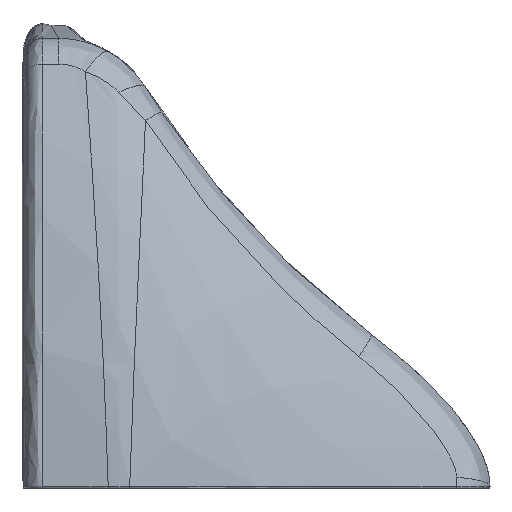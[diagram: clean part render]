
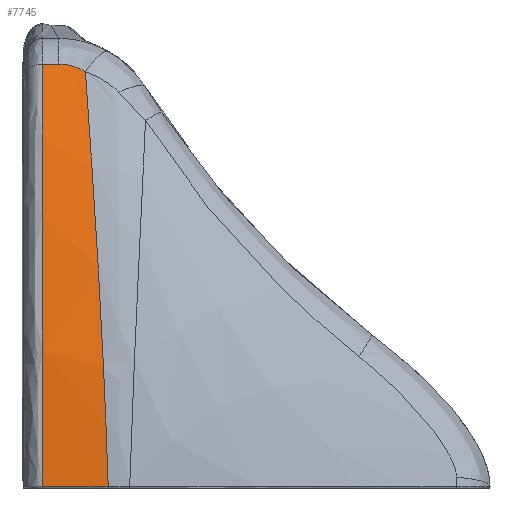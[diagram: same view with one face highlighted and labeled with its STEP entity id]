
A CAD part, left-side view. The second image highlights one B-rep face of the part: STEP entity #7745.
In plain terms, the highlighted cylindrical face has radius 1300 mm (diameter 2600 mm), a partial arc.
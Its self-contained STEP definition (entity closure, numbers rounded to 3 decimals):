
#219=CYLINDRICAL_SURFACE('',#8235,1300.);
#690=FACE_OUTER_BOUND('',#1188,.T.);
#1188=EDGE_LOOP('',(#5763,#5764,#5765,#5766,#5767));
#1605=LINE('',#47888,#1841);
#1606=LINE('',#47896,#1842);
#1841=VECTOR('',#8953,1000.);
#1842=VECTOR('',#8954,1000.);
#2575=B_SPLINE_CURVE_WITH_KNOTS('',3,(#47828,#47829,#47830,#47831,#47832,
#47833,#47834,#47835,#47836,#47837,#47838,#47839,#47840,#47841,#47842,#47843,
#47844,#47845,#47846,#47847,#47848,#47849,#47850,#47851,#47852,#47853,#47854,
#47855,#47856,#47857),.UNSPECIFIED.,.F.,.F.,(4,2,2,2,2,2,2,2,2,2,2,2,2,
2,4),(0.04,0.057,0.066,0.074,
0.109,0.178,0.248,0.282,
0.3,0.317,0.386,0.456,
0.49,0.525,0.594),.UNSPECIFIED.);
#2576=B_SPLINE_CURVE_WITH_KNOTS('',3,(#47859,#47860,#47861,#47862,#47863,
#47864,#47865,#47866,#47867,#47868,#47869,#47870,#47871,#47872,#47873,#47874,
#47875,#47876,#47877,#47878,#47879,#47880,#47881,#47882,#47883,#47884,#47885,
#47886),.UNSPECIFIED.,.F.,.F.,(4,3,3,3,3,3,3,3,3,4),(0.,0.005,
0.009,0.014,0.016,0.018,
0.024,0.027,0.033,0.036),
 .UNSPECIFIED.);
#2577=B_SPLINE_CURVE_WITH_KNOTS('',3,(#47890,#47891,#47892,#47893,#47894,
#47895),.UNSPECIFIED.,.F.,.F.,(4,2,4),(0.004,0.475,
1.),.UNSPECIFIED.);
#3305=VERTEX_POINT('',#47826);
#3306=VERTEX_POINT('',#47827);
#3307=VERTEX_POINT('',#47858);
#3308=VERTEX_POINT('',#47887);
#3309=VERTEX_POINT('',#47889);
#4179=EDGE_CURVE('',#3305,#3306,#2575,.T.);
#4180=EDGE_CURVE('',#3307,#3305,#2576,.T.);
#4181=EDGE_CURVE('',#3308,#3307,#1605,.T.);
#4182=EDGE_CURVE('',#3309,#3308,#2577,.T.);
#4183=EDGE_CURVE('',#3306,#3309,#1606,.T.);
#5763=ORIENTED_EDGE('',*,*,#4179,.F.);
#5764=ORIENTED_EDGE('',*,*,#4180,.F.);
#5765=ORIENTED_EDGE('',*,*,#4181,.F.);
#5766=ORIENTED_EDGE('',*,*,#4182,.F.);
#5767=ORIENTED_EDGE('',*,*,#4183,.F.);
#7745=ADVANCED_FACE('',(#690),#219,.T.);
#8235=AXIS2_PLACEMENT_3D('',#47825,#8951,#8952);
#8951=DIRECTION('center_axis',(0.,-1.,0.));
#8952=DIRECTION('ref_axis',(0.,0.,-1.));
#8953=DIRECTION('',(0.,-1.,0.));
#8954=DIRECTION('',(0.,1.,0.));
#47825=CARTESIAN_POINT('Origin',(699.607,600.,-31.963));
#47826=CARTESIAN_POINT('',(-470.059,519.893,535.383));
#47827=CARTESIAN_POINT('',(-599.948,490.598,2.052));
#47828=CARTESIAN_POINT('Ctrl Pts',(-470.059,519.893,535.383));
#47829=CARTESIAN_POINT('Ctrl Pts',(-472.577,519.643,530.193));
#47830=CARTESIAN_POINT('Ctrl Pts',(-475.058,519.337,524.989));
#47831=CARTESIAN_POINT('Ctrl Pts',(-478.727,518.796,517.161));
#47832=CARTESIAN_POINT('Ctrl Pts',(-479.941,518.6,514.548));
#47833=CARTESIAN_POINT('Ctrl Pts',(-482.352,518.219,509.314));
#47834=CARTESIAN_POINT('Ctrl Pts',(-483.549,518.029,506.692));
#47835=CARTESIAN_POINT('Ctrl Pts',(-489.491,517.079,493.565));
#47836=CARTESIAN_POINT('Ctrl Pts',(-494.107,516.321,482.992));
#47837=CARTESIAN_POINT('Ctrl Pts',(-507.516,514.068,451.137));
#47838=CARTESIAN_POINT('Ctrl Pts',(-515.874,512.589,429.702));
#47839=CARTESIAN_POINT('Ctrl Pts',(-531.438,509.695,386.435));
#47840=CARTESIAN_POINT('Ctrl Pts',(-538.643,508.279,364.604));
#47841=CARTESIAN_POINT('Ctrl Pts',(-548.586,506.217,331.558));
#47842=CARTESIAN_POINT('Ctrl Pts',(-551.755,505.54,320.493));
#47843=CARTESIAN_POINT('Ctrl Pts',(-556.292,504.541,303.821));
#47844=CARTESIAN_POINT('Ctrl Pts',(-557.768,504.211,298.251));
#47845=CARTESIAN_POINT('Ctrl Pts',(-560.647,503.556,287.086));
#47846=CARTESIAN_POINT('Ctrl Pts',(-562.051,503.232,281.489));
#47847=CARTESIAN_POINT('Ctrl Pts',(-568.881,501.627,253.47));
#47848=CARTESIAN_POINT('Ctrl Pts',(-573.74,500.397,230.941));
#47849=CARTESIAN_POINT('Ctrl Pts',(-582.256,498.061,185.658));
#47850=CARTESIAN_POINT('Ctrl Pts',(-585.912,496.955,162.903));
#47851=CARTESIAN_POINT('Ctrl Pts',(-590.491,495.4,128.601));
#47852=CARTESIAN_POINT('Ctrl Pts',(-591.866,494.898,117.133));
#47853=CARTESIAN_POINT('Ctrl Pts',(-594.31,493.933,94.18));
#47854=CARTESIAN_POINT('Ctrl Pts',(-595.379,493.47,82.692));
#47855=CARTESIAN_POINT('Ctrl Pts',(-598.125,492.137,48.192));
#47856=CARTESIAN_POINT('Ctrl Pts',(-599.343,491.326,25.145));
#47857=CARTESIAN_POINT('Ctrl Pts',(-599.948,490.598,2.052));
#47858=CARTESIAN_POINT('',(-465.351,554.068,544.988));
#47859=CARTESIAN_POINT('Ctrl Pts',(-465.351,554.068,544.988));
#47860=CARTESIAN_POINT('Ctrl Pts',(-465.351,552.505,544.988));
#47861=CARTESIAN_POINT('Ctrl Pts',(-465.38,550.95,544.931));
#47862=CARTESIAN_POINT('Ctrl Pts',(-465.436,549.403,544.818));
#47863=CARTESIAN_POINT('Ctrl Pts',(-465.489,547.928,544.71));
#47864=CARTESIAN_POINT('Ctrl Pts',(-465.568,546.46,544.551));
#47865=CARTESIAN_POINT('Ctrl Pts',(-465.671,544.999,544.343));
#47866=CARTESIAN_POINT('Ctrl Pts',(-465.776,543.502,544.129));
#47867=CARTESIAN_POINT('Ctrl Pts',(-465.908,542.013,543.864));
#47868=CARTESIAN_POINT('Ctrl Pts',(-466.064,540.531,543.546));
#47869=CARTESIAN_POINT('Ctrl Pts',(-466.143,539.79,543.387));
#47870=CARTESIAN_POINT('Ctrl Pts',(-466.228,539.051,543.215));
#47871=CARTESIAN_POINT('Ctrl Pts',(-466.318,538.319,543.032));
#47872=CARTESIAN_POINT('Ctrl Pts',(-466.409,537.587,542.848));
#47873=CARTESIAN_POINT('Ctrl Pts',(-466.505,536.861,542.653));
#47874=CARTESIAN_POINT('Ctrl Pts',(-466.607,536.14,542.446));
#47875=CARTESIAN_POINT('Ctrl Pts',(-466.858,534.367,541.937));
#47876=CARTESIAN_POINT('Ctrl Pts',(-467.142,532.629,541.358));
#47877=CARTESIAN_POINT('Ctrl Pts',(-467.459,530.924,540.714));
#47878=CARTESIAN_POINT('Ctrl Pts',(-467.656,529.857,540.31));
#47879=CARTESIAN_POINT('Ctrl Pts',(-467.867,528.803,539.881));
#47880=CARTESIAN_POINT('Ctrl Pts',(-468.089,527.762,539.427));
#47881=CARTESIAN_POINT('Ctrl Pts',(-468.439,526.119,538.711));
#47882=CARTESIAN_POINT('Ctrl Pts',(-468.82,524.508,537.932));
#47883=CARTESIAN_POINT('Ctrl Pts',(-469.229,522.926,537.092));
#47884=CARTESIAN_POINT('Ctrl Pts',(-469.494,521.903,536.548));
#47885=CARTESIAN_POINT('Ctrl Pts',(-469.771,520.892,535.978));
#47886=CARTESIAN_POINT('Ctrl Pts',(-470.059,519.893,535.383));
#47887=CARTESIAN_POINT('',(-465.351,575.,544.988));
#47888=CARTESIAN_POINT('',(-465.351,600.,544.988));
#47889=CARTESIAN_POINT('',(-599.947,575.,2.052));
#47890=CARTESIAN_POINT('Ctrl Pts',(-599.947,575.,2.052));
#47891=CARTESIAN_POINT('Ctrl Pts',(-597.614,575.,90.928));
#47892=CARTESIAN_POINT('Ctrl Pts',(-586.147,575.,179.561));
#47893=CARTESIAN_POINT('Ctrl Pts',(-543.059,575.,362.481));
#47894=CARTESIAN_POINT('Ctrl Pts',(-509.298,575.,456.252));
#47895=CARTESIAN_POINT('Ctrl Pts',(-465.351,575.,544.988));
#47896=CARTESIAN_POINT('',(-599.948,600.,2.052));
